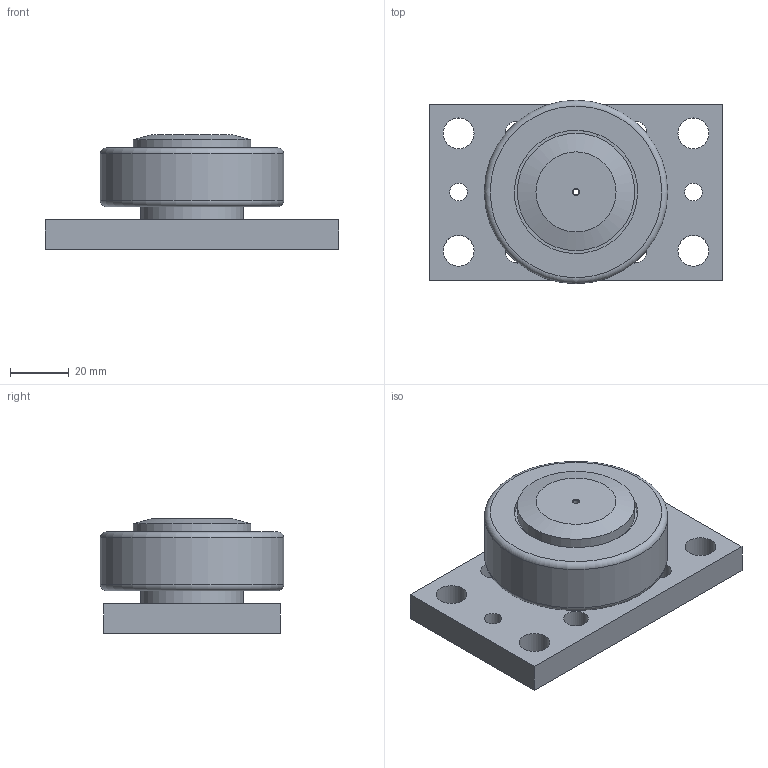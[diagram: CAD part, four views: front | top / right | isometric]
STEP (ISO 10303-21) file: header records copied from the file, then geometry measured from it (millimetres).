
FILE_DESCRIPTION(/* description */ ('-','CAx-IF Rec.Pracs.---Representation and Presentation of Product Manufacturing Information (PMI)---4.0---2014-10-13'),/* implementation_level */ '2;1');
FILE_NAME(/* name */ 'c:\temp\ec3e9047-bb00-48c1-9f12-83b8db271b19\21f84e0a-7e0c-4322-b59b-068556b0a79f.stp',/* time_stamp */ '2020-03-30T16:55:24+02:00',/* author */ ('-'),/* organization */ ('NTI CADcenter A/S'),/* preprocessor_version */ 'ST-DEVELOPER v18',/* originating_system */ 'Autodesk Inventor 2020',/* authorisation */ '-');
FILE_SCHEMA (('AP242_MANAGED_MODEL_BASED_3D_ENGINEERING_MIM_LF { 1 0 10303 442 1 1 4 }'));
Length unit declared in the file: millimetre
Products named in the file (1): AS 060.0360 BR1100-16151_Kontur
Bounding box: 100 x 62.5 x 39 mm (x, y, z)
Volume: 113058.5 mm3; surface area: 33707.3 mm2
Topology: 6 solids, 6 shells, 85 faces, 231 edges, 159 vertices
Faces by surface type: cylinder 36, plane 28, torus 10, cone 7, sphere 4
Full cylindrical faces by diameter (mm): 2 x1, 2.5 x2, 6 x2, 6.647 x1, 8.376 x4, 10.5 x4, 12 x1, 19 x1, 20 x2, 25 x1, 27.04 x2, 34.96 x2, 35 x1, 37 x1, 40 x1, 42 x1, 44.5 x1, 62.5 x1
Entity records: 3145 total; most frequent: DIRECTION 572, CARTESIAN_POINT 492, ORIENTED_EDGE 462, AXIS2_PLACEMENT_3D 255, EDGE_CURVE 231, VERTEX_POINT 175, CIRCLE 169, EDGE_LOOP 130
